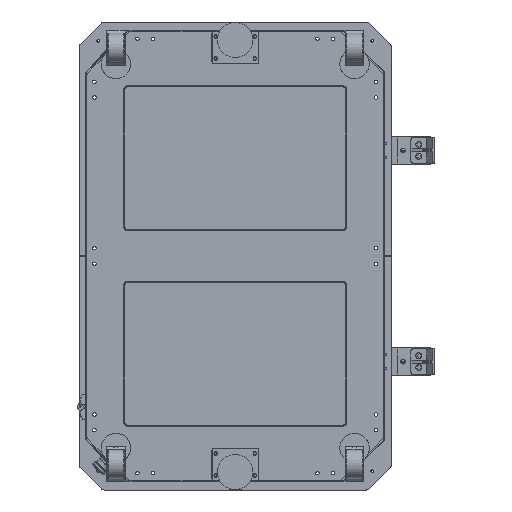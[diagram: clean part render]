
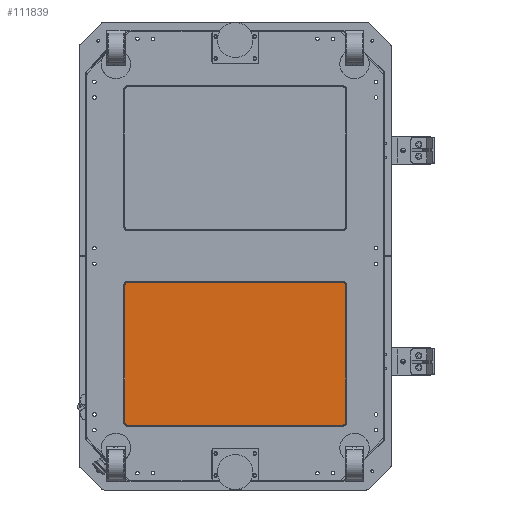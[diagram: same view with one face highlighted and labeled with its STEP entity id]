
A CAD part, front view. The second image highlights one B-rep face of the part: STEP entity #111839.
In plain terms, the highlighted planar face has unit normal (0, -1, 0).
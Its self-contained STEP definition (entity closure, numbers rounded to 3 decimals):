
#990 = CARTESIAN_POINT ( 'NONE',  ( 275., 10., -425. ) ) ;
#2517 = LINE ( 'NONE', #75395, #186537 ) ;
#12264 = VERTEX_POINT ( 'NONE', #20236 ) ;
#12330 = CARTESIAN_POINT ( 'NONE',  ( -275., 10., -432. ) ) ;
#13555 = DIRECTION ( 'NONE',  ( 0., -1., 0. ) ) ;
#19117 = LINE ( 'NONE', #190428, #53524 ) ;
#20236 = CARTESIAN_POINT ( 'NONE',  ( -282., 10., -75. ) ) ;
#24680 = DIRECTION ( 'NONE',  ( 1., 0., 0. ) ) ;
#29391 = CIRCLE ( 'NONE', #92870, 7. ) ;
#30581 = PLANE ( 'NONE',  #140525 ) ;
#33762 = ORIENTED_EDGE ( 'NONE', *, *, #73612, .T. ) ;
#34414 = VECTOR ( 'NONE', #140989, 1000. ) ;
#38404 = CARTESIAN_POINT ( 'NONE',  ( 282., 10., -75. ) ) ;
#41935 = EDGE_CURVE ( 'NONE', #128646, #12264, #29391, .T. ) ;
#45295 = CARTESIAN_POINT ( 'NONE',  ( -282., 10., -425. ) ) ;
#47578 = CARTESIAN_POINT ( 'NONE',  ( -275., 10., -68. ) ) ;
#47675 = DIRECTION ( 'NONE',  ( 0., 1., 0. ) ) ;
#51091 = AXIS2_PLACEMENT_3D ( 'NONE', #107529, #13555, #60811 ) ;
#51577 = DIRECTION ( 'NONE',  ( 1., 0., 0. ) ) ;
#53524 = VECTOR ( 'NONE', #177288, 1000. ) ;
#56143 = CARTESIAN_POINT ( 'NONE',  ( -275., 10., -425. ) ) ;
#60811 = DIRECTION ( 'NONE',  ( 1., 0., 0. ) ) ;
#63423 = DIRECTION ( 'NONE',  ( 0., 0., -1. ) ) ;
#65073 = CIRCLE ( 'NONE', #110269, 7. ) ;
#66305 = ORIENTED_EDGE ( 'NONE', *, *, #147896, .T. ) ;
#70227 = CARTESIAN_POINT ( 'NONE',  ( 275., 10., -432. ) ) ;
#73612 = EDGE_CURVE ( 'NONE', #129446, #86309, #116124, .T. ) ;
#75395 = CARTESIAN_POINT ( 'NONE',  ( -282., 10., -425. ) ) ;
#80266 = CARTESIAN_POINT ( 'NONE',  ( 275., 10., -68. ) ) ;
#86309 = VERTEX_POINT ( 'NONE', #80266 ) ;
#89079 = DIRECTION ( 'NONE',  ( 0., -1., 0. ) ) ;
#92870 = AXIS2_PLACEMENT_3D ( 'NONE', #159390, #129084, #190982 ) ;
#93702 = CARTESIAN_POINT ( 'NONE',  ( -290., 10., -60. ) ) ;
#93794 = ORIENTED_EDGE ( 'NONE', *, *, #188502, .T. ) ;
#96265 = DIRECTION ( 'NONE',  ( 0., -1., 0. ) ) ;
#107529 = CARTESIAN_POINT ( 'NONE',  ( 275., 10., -75. ) ) ;
#108833 = CARTESIAN_POINT ( 'NONE',  ( 282., 10., -425. ) ) ;
#110269 = AXIS2_PLACEMENT_3D ( 'NONE', #56143, #89079, #24680 ) ;
#111174 = EDGE_CURVE ( 'NONE', #12264, #133525, #2517, .T. ) ;
#111839 = ADVANCED_FACE ( 'NONE', ( #129305 ), #30581, .F. ) ;
#115923 = ORIENTED_EDGE ( 'NONE', *, *, #137011, .T. ) ;
#116124 = CIRCLE ( 'NONE', #51091, 7. ) ;
#117004 = LINE ( 'NONE', #147638, #190756 ) ;
#128646 = VERTEX_POINT ( 'NONE', #47578 ) ;
#129084 = DIRECTION ( 'NONE',  ( 0., -1., 0. ) ) ;
#129305 = FACE_OUTER_BOUND ( 'NONE', #189610, .T. ) ;
#129446 = VERTEX_POINT ( 'NONE', #38404 ) ;
#133525 = VERTEX_POINT ( 'NONE', #45295 ) ;
#133634 = ORIENTED_EDGE ( 'NONE', *, *, #41935, .T. ) ;
#137011 = EDGE_CURVE ( 'NONE', #133525, #200412, #65073, .T. ) ;
#139888 = VERTEX_POINT ( 'NONE', #70227 ) ;
#140525 = AXIS2_PLACEMENT_3D ( 'NONE', #93702, #47675, #63423 ) ;
#140989 = DIRECTION ( 'NONE',  ( 0., 0., 1. ) ) ;
#147638 = CARTESIAN_POINT ( 'NONE',  ( -275., 10., -432. ) ) ;
#147896 = EDGE_CURVE ( 'NONE', #86309, #128646, #19117, .T. ) ;
#152389 = AXIS2_PLACEMENT_3D ( 'NONE', #990, #96265, #158017 ) ;
#158017 = DIRECTION ( 'NONE',  ( 1., 0., 0. ) ) ;
#159390 = CARTESIAN_POINT ( 'NONE',  ( -275., 10., -75. ) ) ;
#159633 = LINE ( 'NONE', #108833, #34414 ) ;
#166802 = DIRECTION ( 'NONE',  ( 0., 0., -1. ) ) ;
#166906 = CIRCLE ( 'NONE', #152389, 7. ) ;
#167432 = EDGE_CURVE ( 'NONE', #139888, #184899, #166906, .T. ) ;
#177288 = DIRECTION ( 'NONE',  ( -1., 0., 0. ) ) ;
#179774 = EDGE_CURVE ( 'NONE', #184899, #129446, #159633, .T. ) ;
#182308 = ORIENTED_EDGE ( 'NONE', *, *, #179774, .T. ) ;
#182978 = ORIENTED_EDGE ( 'NONE', *, *, #167432, .T. ) ;
#184899 = VERTEX_POINT ( 'NONE', #196832 ) ;
#186404 = ORIENTED_EDGE ( 'NONE', *, *, #111174, .T. ) ;
#186537 = VECTOR ( 'NONE', #166802, 1000. ) ;
#188502 = EDGE_CURVE ( 'NONE', #200412, #139888, #117004, .T. ) ;
#189610 = EDGE_LOOP ( 'NONE', ( #186404, #115923, #93794, #182978, #182308, #33762, #66305, #133634 ) ) ;
#190428 = CARTESIAN_POINT ( 'NONE',  ( -275., 10., -68. ) ) ;
#190756 = VECTOR ( 'NONE', #51577, 1000. ) ;
#190982 = DIRECTION ( 'NONE',  ( 1., 0., 0. ) ) ;
#196832 = CARTESIAN_POINT ( 'NONE',  ( 282., 10., -425. ) ) ;
#200412 = VERTEX_POINT ( 'NONE', #12330 ) ;
